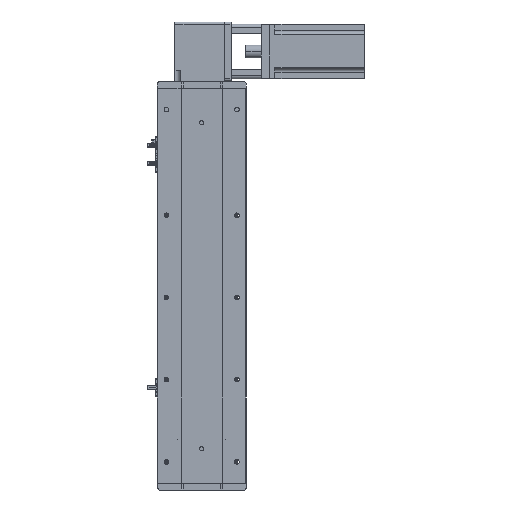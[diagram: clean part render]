
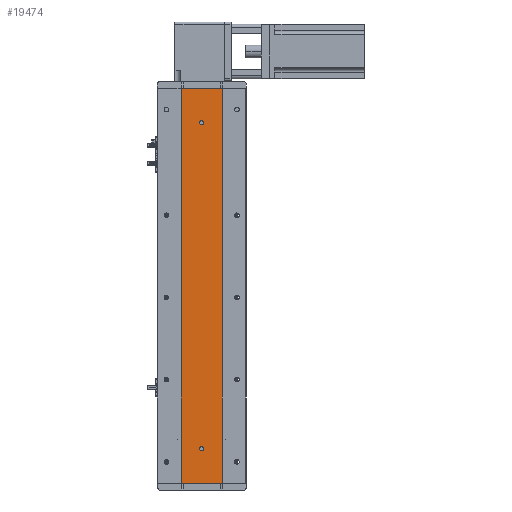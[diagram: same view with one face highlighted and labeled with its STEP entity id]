
A CAD part, left-side view. The second image highlights one B-rep face of the part: STEP entity #19474.
In plain terms, the highlighted planar face has unit normal (-1, 0, 0).
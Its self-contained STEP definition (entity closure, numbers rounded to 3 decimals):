
#655 = VERTEX_POINT ( 'NONE', #33724 ) ;
#949 = VECTOR ( 'NONE', #39974, 1000. ) ;
#1491 = DIRECTION ( 'NONE',  ( 0., -1., 0. ) ) ;
#1526 = DIRECTION ( 'NONE',  ( -1., 0., 0. ) ) ;
#1565 = EDGE_CURVE ( 'NONE', #36404, #30475, #28280, .T. ) ;
#2692 = LINE ( 'NONE', #21959, #10694 ) ;
#3529 = EDGE_CURVE ( 'NONE', #35192, #26075, #13149, .T. ) ;
#5823 = PLANE ( 'NONE',  #20059 ) ;
#5982 = CARTESIAN_POINT ( 'NONE',  ( -24.994, 29.785, 576. ) ) ;
#6995 = DIRECTION ( 'NONE',  ( -1., 0., 0. ) ) ;
#7136 = EDGE_LOOP ( 'NONE', ( #24677, #22004 ) ) ;
#7597 = CARTESIAN_POINT ( 'NONE',  ( -24.994, 0., 53. ) ) ;
#8935 = LINE ( 'NONE', #36490, #949 ) ;
#9364 = DIRECTION ( 'NONE',  ( 0., 0., -1. ) ) ;
#9681 = EDGE_LOOP ( 'NONE', ( #31087, #20399, #39301, #35757 ) ) ;
#10141 = CARTESIAN_POINT ( 'NONE',  ( -24.994, 0., 47. ) ) ;
#10694 = VECTOR ( 'NONE', #1491, 1000. ) ;
#11784 = VECTOR ( 'NONE', #18240, 1000. ) ;
#12175 = ORIENTED_EDGE ( 'NONE', *, *, #19287, .F. ) ;
#12869 = LINE ( 'NONE', #31382, #11784 ) ;
#13149 = CIRCLE ( 'NONE', #41999, 3. ) ;
#13411 = EDGE_CURVE ( 'NONE', #18684, #43070, #2692, .T. ) ;
#13541 = CARTESIAN_POINT ( 'NONE',  ( -24.994, 0., 529. ) ) ;
#14756 = VERTEX_POINT ( 'NONE', #40781 ) ;
#14986 = CARTESIAN_POINT ( 'NONE',  ( -24.994, 29.785, 0. ) ) ;
#15081 = DIRECTION ( 'NONE',  ( -1., 0., 0. ) ) ;
#15753 = DIRECTION ( 'NONE',  ( -1., 0., 0. ) ) ;
#16174 = EDGE_LOOP ( 'NONE', ( #33349, #12175 ) ) ;
#16621 = EDGE_CURVE ( 'NONE', #30475, #36404, #23298, .T. ) ;
#17420 = FACE_BOUND ( 'NONE', #7136, .T. ) ;
#18240 = DIRECTION ( 'NONE',  ( 0., -1., 0. ) ) ;
#18684 = VERTEX_POINT ( 'NONE', #14986 ) ;
#19287 = EDGE_CURVE ( 'NONE', #26075, #35192, #31339, .T. ) ;
#19474 = ADVANCED_FACE ( 'NONE', ( #17420, #35670, #43828 ), #5823, .F. ) ;
#20059 = AXIS2_PLACEMENT_3D ( 'NONE', #5982, #29824, #9364 ) ;
#20206 = CARTESIAN_POINT ( 'NONE',  ( -24.994, -29.785, 576. ) ) ;
#20399 = ORIENTED_EDGE ( 'NONE', *, *, #21846, .F. ) ;
#20685 = CARTESIAN_POINT ( 'NONE',  ( -24.994, -29.785, 0. ) ) ;
#21846 = EDGE_CURVE ( 'NONE', #14756, #43070, #33165, .T. ) ;
#21959 = CARTESIAN_POINT ( 'NONE',  ( -24.994, 29.785, 0. ) ) ;
#21985 = AXIS2_PLACEMENT_3D ( 'NONE', #27438, #6995, #30873 ) ;
#21994 = CARTESIAN_POINT ( 'NONE',  ( -24.994, 0., 50. ) ) ;
#22004 = ORIENTED_EDGE ( 'NONE', *, *, #1565, .F. ) ;
#22048 = EDGE_CURVE ( 'NONE', #655, #14756, #12869, .T. ) ;
#23298 = CIRCLE ( 'NONE', #32524, 3. ) ;
#24677 = ORIENTED_EDGE ( 'NONE', *, *, #16621, .F. ) ;
#25141 = VECTOR ( 'NONE', #44345, 1000. ) ;
#25431 = DIRECTION ( 'NONE',  ( 0., 0., 1. ) ) ;
#26075 = VERTEX_POINT ( 'NONE', #10141 ) ;
#27438 = CARTESIAN_POINT ( 'NONE',  ( -24.994, 0., 526. ) ) ;
#28280 = CIRCLE ( 'NONE', #21985, 3. ) ;
#29824 = DIRECTION ( 'NONE',  ( 1., 0., 0. ) ) ;
#30475 = VERTEX_POINT ( 'NONE', #13541 ) ;
#30873 = DIRECTION ( 'NONE',  ( 0., 0., 1. ) ) ;
#30886 = AXIS2_PLACEMENT_3D ( 'NONE', #35634, #15081, #39099 ) ;
#31087 = ORIENTED_EDGE ( 'NONE', *, *, #13411, .T. ) ;
#31339 = CIRCLE ( 'NONE', #30886, 3. ) ;
#31382 = CARTESIAN_POINT ( 'NONE',  ( -24.994, 29.785, 576. ) ) ;
#32524 = AXIS2_PLACEMENT_3D ( 'NONE', #36314, #15753, #39802 ) ;
#33020 = CARTESIAN_POINT ( 'NONE',  ( -24.994, 0., 523. ) ) ;
#33165 = LINE ( 'NONE', #20206, #25141 ) ;
#33349 = ORIENTED_EDGE ( 'NONE', *, *, #3529, .F. ) ;
#33724 = CARTESIAN_POINT ( 'NONE',  ( -24.994, 29.785, 576. ) ) ;
#35192 = VERTEX_POINT ( 'NONE', #7597 ) ;
#35634 = CARTESIAN_POINT ( 'NONE',  ( -24.994, 0., 50. ) ) ;
#35670 = FACE_BOUND ( 'NONE', #16174, .T. ) ;
#35757 = ORIENTED_EDGE ( 'NONE', *, *, #36873, .T. ) ;
#36314 = CARTESIAN_POINT ( 'NONE',  ( -24.994, 0., 526. ) ) ;
#36404 = VERTEX_POINT ( 'NONE', #33020 ) ;
#36490 = CARTESIAN_POINT ( 'NONE',  ( -24.994, 29.785, 576. ) ) ;
#36873 = EDGE_CURVE ( 'NONE', #655, #18684, #8935, .T. ) ;
#39099 = DIRECTION ( 'NONE',  ( 0., 0., 1. ) ) ;
#39301 = ORIENTED_EDGE ( 'NONE', *, *, #22048, .F. ) ;
#39802 = DIRECTION ( 'NONE',  ( 0., 0., 1. ) ) ;
#39974 = DIRECTION ( 'NONE',  ( 0., 0., -1. ) ) ;
#40781 = CARTESIAN_POINT ( 'NONE',  ( -24.994, -29.785, 576. ) ) ;
#41999 = AXIS2_PLACEMENT_3D ( 'NONE', #21994, #1526, #25431 ) ;
#43070 = VERTEX_POINT ( 'NONE', #20685 ) ;
#43828 = FACE_OUTER_BOUND ( 'NONE', #9681, .T. ) ;
#44345 = DIRECTION ( 'NONE',  ( 0., 0., -1. ) ) ;
